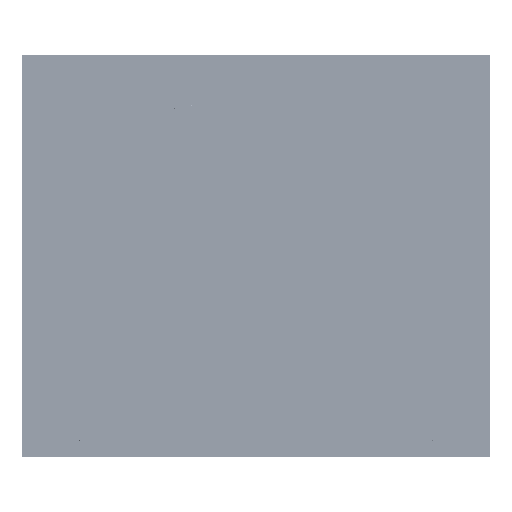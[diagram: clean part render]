
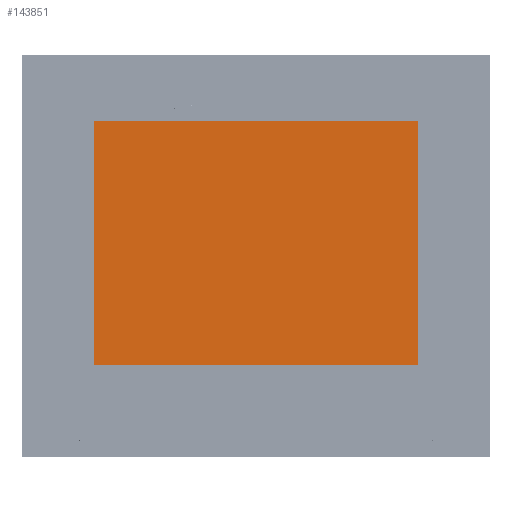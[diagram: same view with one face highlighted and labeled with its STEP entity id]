
A CAD part, top view. The second image highlights one B-rep face of the part: STEP entity #143851.
In plain terms, the highlighted planar face has unit normal (0, 0, 1).
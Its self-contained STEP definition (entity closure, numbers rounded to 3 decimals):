
#11071=FACE_OUTER_BOUND('',#19039,.T.);
#19039=EDGE_LOOP('',(#110900,#110901,#110902,#110903));
#29944=LINE('',#256604,#46011);
#29948=LINE('',#256612,#46015);
#29991=LINE('',#256723,#46058);
#29993=LINE('',#256726,#46060);
#46011=VECTOR('',#170213,10.);
#46015=VECTOR('',#170219,10.);
#46058=VECTOR('',#170300,10.);
#46060=VECTOR('',#170304,10.);
#64676=VERTEX_POINT('',#256602);
#64677=VERTEX_POINT('',#256603);
#64680=VERTEX_POINT('',#256611);
#64729=VERTEX_POINT('',#256722);
#81291=EDGE_CURVE('',#64676,#64677,#29944,.T.);
#81295=EDGE_CURVE('',#64680,#64676,#29948,.T.);
#81350=EDGE_CURVE('',#64677,#64729,#29991,.T.);
#81352=EDGE_CURVE('',#64729,#64680,#29993,.T.);
#110900=ORIENTED_EDGE('',*,*,#81295,.T.);
#110901=ORIENTED_EDGE('',*,*,#81291,.T.);
#110902=ORIENTED_EDGE('',*,*,#81350,.T.);
#110903=ORIENTED_EDGE('',*,*,#81352,.T.);
#137108=PLANE('',#152448);
#143851=ADVANCED_FACE('',(#11071),#137108,.T.);
#152448=AXIS2_PLACEMENT_3D('',#256857,#170437,#170438);
#170213=DIRECTION('',(1.,0.,0.));
#170219=DIRECTION('',(0.,-1.,0.));
#170300=DIRECTION('',(0.,1.,0.));
#170304=DIRECTION('',(-1.,0.,0.));
#170437=DIRECTION('center_axis',(0.,0.,
1.));
#170438=DIRECTION('ref_axis',(-1.,0.,0.));
#256602=CARTESIAN_POINT('',(-123.15,-82.45,3.403));
#256603=CARTESIAN_POINT('',(123.15,-82.45,3.403));
#256604=CARTESIAN_POINT('',(1.275,-82.45,3.403));
#256611=CARTESIAN_POINT('',(-123.15,102.85,3.403));
#256612=CARTESIAN_POINT('',(-123.15,104.35,3.403));
#256722=CARTESIAN_POINT('',(123.15,102.85,3.403));
#256723=CARTESIAN_POINT('',(123.15,104.35,3.403));
#256726=CARTESIAN_POINT('',(1.275,102.85,3.403));
#256857=CARTESIAN_POINT('Origin',(125.7,105.85,3.403));
